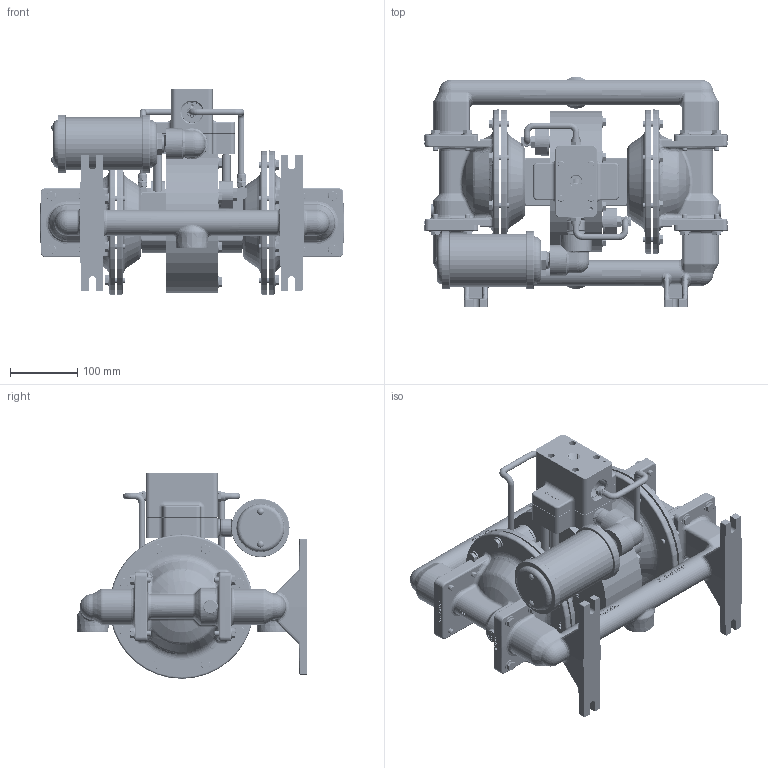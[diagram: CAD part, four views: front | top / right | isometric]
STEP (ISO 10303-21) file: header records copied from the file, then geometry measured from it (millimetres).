
FILE_DESCRIPTION((''),'2;1');
FILE_NAME('H220_TOP_METAL_SW0001','2017-11-01T',('10013162'),(''),'PRO/ENGINEER BY PARAMETRIC TECHNOLOGY CORPORATION, 2015360','PRO/ENGINEER BY PARAMETRIC TECHNOLOGY CORPORATION, 2015360','');
FILE_SCHEMA(('CONFIG_CONTROL_DESIGN'));
Length unit declared in the file: inch
Products named in the file (1): H220_TOP_METAL_SW0001
Bounding box: 450.6 x 342.29 x 305.24 mm (x, y, z)
Volume: 6723265 mm3; surface area: 1281467.3 mm2
Topology: 27 solids, 27 shells, 11628 faces, 30255 edges, 19204 vertices
Faces by surface type: plane 7620, cylinder 1895, cone 1069, torus 444, bspline 426, sphere 174
Entity records: 481653 total; most frequent: CARTESIAN_POINT 197816, ORIENTED_EDGE 60358, DIRECTION 56768, EDGE_CURVE 30179, VECTOR 21754, LINE 21754, VERTEX_POINT 19204, AXIS2_PLACEMENT_3D 17507
